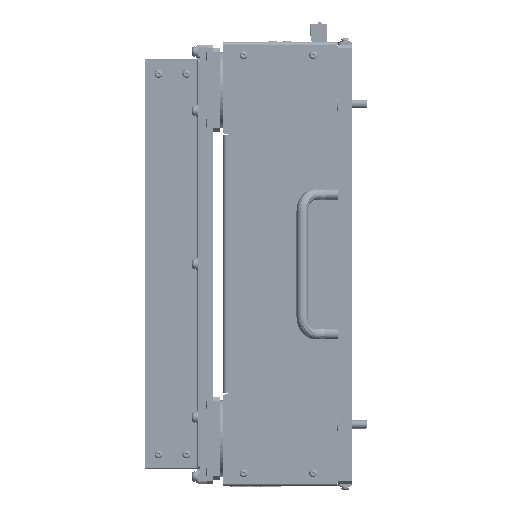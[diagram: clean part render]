
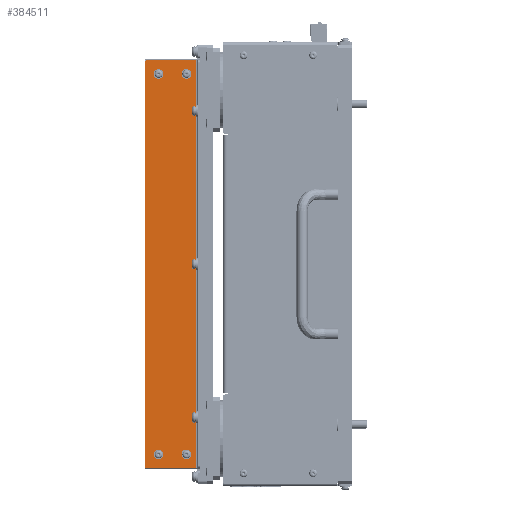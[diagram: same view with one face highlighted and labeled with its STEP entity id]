
A CAD part, left-side view. The second image highlights one B-rep face of the part: STEP entity #384511.
In plain terms, the highlighted planar face has unit normal (-1, 0, 0).
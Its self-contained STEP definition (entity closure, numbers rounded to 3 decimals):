
#17263 = DIRECTION ( 'NONE',  ( 0., 0., -1. ) ) ;
#31690 = AXIS2_PLACEMENT_3D ( 'NONE', #420384, #578391, #221488 ) ;
#31878 = AXIS2_PLACEMENT_3D ( 'NONE', #326710, #168630, #17263 ) ;
#34967 = AXIS2_PLACEMENT_3D ( 'NONE', #382477, #590335, #282899 ) ;
#39149 = CARTESIAN_POINT ( 'NONE',  ( -212.922, 69., 157.105 ) ) ;
#39242 = ORIENTED_EDGE ( 'NONE', *, *, #552658, .F. ) ;
#52401 = CIRCLE ( 'NONE', #560769, 1.7 ) ;
#54641 = EDGE_CURVE ( 'NONE', #337383, #393787, #300735, .T. ) ;
#56567 = EDGE_LOOP ( 'NONE', ( #76183, #481731, #202450, #397173, #549243, #652537 ) ) ;
#67831 = CARTESIAN_POINT ( 'NONE',  ( -212.922, 89., -117.595 ) ) ;
#76183 = ORIENTED_EDGE ( 'NONE', *, *, #329081, .T. ) ;
#80125 = VERTEX_POINT ( 'NONE', #184512 ) ;
#82887 = CARTESIAN_POINT ( 'NONE',  ( -212.922, 59., 167.105 ) ) ;
#93520 = AXIS2_PLACEMENT_3D ( 'NONE', #572575, #475442, #518470 ) ;
#95656 = ORIENTED_EDGE ( 'NONE', *, *, #641514, .F. ) ;
#97357 = LINE ( 'NONE', #82887, #639337 ) ;
#98959 = FACE_BOUND ( 'NONE', #355547, .T. ) ;
#114198 = ORIENTED_EDGE ( 'NONE', *, *, #333088, .F. ) ;
#120889 = DIRECTION ( 'NONE',  ( -1., 0., 0. ) ) ;
#128914 = ORIENTED_EDGE ( 'NONE', *, *, #228514, .F. ) ;
#136998 = EDGE_CURVE ( 'NONE', #425905, #322918, #293176, .T. ) ;
#143295 = VERTEX_POINT ( 'NONE', #620920 ) ;
#146406 = EDGE_LOOP ( 'NONE', ( #114198, #620116 ) ) ;
#162684 = EDGE_CURVE ( 'NONE', #322918, #425905, #52401, .T. ) ;
#168373 = CARTESIAN_POINT ( 'NONE',  ( -212.922, 69., 157.105 ) ) ;
#168630 = DIRECTION ( 'NONE',  ( -1., 0., 0. ) ) ;
#179254 = CARTESIAN_POINT ( 'NONE',  ( -212.922, 69., -115.895 ) ) ;
#184512 = CARTESIAN_POINT ( 'NONE',  ( -212.922, 89., -114.195 ) ) ;
#185444 = EDGE_CURVE ( 'NONE', #383135, #463753, #97357, .T. ) ;
#196673 = LINE ( 'NONE', #413258, #285360 ) ;
#202450 = ORIENTED_EDGE ( 'NONE', *, *, #521090, .T. ) ;
#203455 = PLANE ( 'NONE',  #435045 ) ;
#211276 = VERTEX_POINT ( 'NONE', #527245 ) ;
#211627 = VECTOR ( 'NONE', #541244, 1000. ) ;
#212379 = FACE_BOUND ( 'NONE', #146406, .T. ) ;
#213501 = EDGE_CURVE ( 'NONE', #463753, #211276, #261189, .T. ) ;
#221488 = DIRECTION ( 'NONE',  ( 0., 0., 1. ) ) ;
#228514 = EDGE_CURVE ( 'NONE', #143295, #667035, #312199, .T. ) ;
#229157 = CIRCLE ( 'NONE', #324008, 1.7 ) ;
#236482 = FACE_BOUND ( 'NONE', #537164, .T. ) ;
#244102 = LINE ( 'NONE', #335627, #211627 ) ;
#246918 = DIRECTION ( 'NONE',  ( -1., 0., 0. ) ) ;
#255420 = DIRECTION ( 'NONE',  ( 1., 0., 0. ) ) ;
#261189 = CIRCLE ( 'NONE', #31878, 2. ) ;
#262740 = VERTEX_POINT ( 'NONE', #461682 ) ;
#282899 = DIRECTION ( 'NONE',  ( 0., 0., 1. ) ) ;
#285360 = VECTOR ( 'NONE', #621103, 1000. ) ;
#291377 = CARTESIAN_POINT ( 'NONE',  ( -212.922, 89., 155.405 ) ) ;
#291850 = LINE ( 'NONE', #292265, #453413 ) ;
#292265 = CARTESIAN_POINT ( 'NONE',  ( -212.922, 62., 167.105 ) ) ;
#293176 = CIRCLE ( 'NONE', #635333, 1.7 ) ;
#298707 = DIRECTION ( 'NONE',  ( 0., 0., 1. ) ) ;
#300735 = CIRCLE ( 'NONE', #451636, 2. ) ;
#312199 = CIRCLE ( 'NONE', #599741, 1.7 ) ;
#322918 = VERTEX_POINT ( 'NONE', #449718 ) ;
#324008 = AXIS2_PLACEMENT_3D ( 'NONE', #439285, #120889, #590713 ) ;
#326710 = CARTESIAN_POINT ( 'NONE',  ( -212.922, 97., 165.105 ) ) ;
#329081 = EDGE_CURVE ( 'NONE', #211276, #337383, #196673, .T. ) ;
#333088 = EDGE_CURVE ( 'NONE', #80125, #522557, #468052, .T. ) ;
#335627 = CARTESIAN_POINT ( 'NONE',  ( -212.922, 59., -125.895 ) ) ;
#337383 = VERTEX_POINT ( 'NONE', #415223 ) ;
#340790 = ORIENTED_EDGE ( 'NONE', *, *, #435680, .F. ) ;
#341313 = CARTESIAN_POINT ( 'NONE',  ( -212.922, 69., 158.805 ) ) ;
#355547 = EDGE_LOOP ( 'NONE', ( #128914, #39242 ) ) ;
#365500 = CIRCLE ( 'NONE', #34967, 1.7 ) ;
#366185 = CARTESIAN_POINT ( 'NONE',  ( -212.922, 89., 158.805 ) ) ;
#375468 = CARTESIAN_POINT ( 'NONE',  ( -212.922, 97., -123.895 ) ) ;
#382203 = DIRECTION ( 'NONE',  ( 0., 0., -1. ) ) ;
#382477 = CARTESIAN_POINT ( 'NONE',  ( -212.922, 89., -115.895 ) ) ;
#382828 = CIRCLE ( 'NONE', #31690, 1.7 ) ;
#383135 = VERTEX_POINT ( 'NONE', #513347 ) ;
#384511 = ADVANCED_FACE ( 'NONE', ( #212379, #98959, #236482, #462591, #656996 ), #203455, .F. ) ;
#387450 = DIRECTION ( 'NONE',  ( 0., 0., -1. ) ) ;
#393787 = VERTEX_POINT ( 'NONE', #548572 ) ;
#393815 = CARTESIAN_POINT ( 'NONE',  ( -212.922, 97., 167.105 ) ) ;
#397173 = ORIENTED_EDGE ( 'NONE', *, *, #662865, .F. ) ;
#403629 = ORIENTED_EDGE ( 'NONE', *, *, #136998, .F. ) ;
#404503 = CARTESIAN_POINT ( 'NONE',  ( -212.922, 79., 20.605 ) ) ;
#413258 = CARTESIAN_POINT ( 'NONE',  ( -212.922, 99., -125.895 ) ) ;
#415223 = CARTESIAN_POINT ( 'NONE',  ( -212.922, 99., -123.895 ) ) ;
#420384 = CARTESIAN_POINT ( 'NONE',  ( -212.922, 89., 157.105 ) ) ;
#425905 = VERTEX_POINT ( 'NONE', #341313 ) ;
#435045 = AXIS2_PLACEMENT_3D ( 'NONE', #404503, #255420, #456502 ) ;
#435680 = EDGE_CURVE ( 'NONE', #633790, #596527, #382828, .T. ) ;
#439285 = CARTESIAN_POINT ( 'NONE',  ( -212.922, 69., -115.895 ) ) ;
#440736 = DIRECTION ( 'NONE',  ( -1., 0., 0. ) ) ;
#449718 = CARTESIAN_POINT ( 'NONE',  ( -212.922, 69., 155.405 ) ) ;
#451636 = AXIS2_PLACEMENT_3D ( 'NONE', #375468, #587819, #382203 ) ;
#453413 = VECTOR ( 'NONE', #387450, 1000. ) ;
#456502 = DIRECTION ( 'NONE',  ( 0., 0., -1. ) ) ;
#461682 = CARTESIAN_POINT ( 'NONE',  ( -212.922, 62., -125.895 ) ) ;
#462591 = FACE_BOUND ( 'NONE', #637338, .T. ) ;
#463753 = VERTEX_POINT ( 'NONE', #393815 ) ;
#468052 = CIRCLE ( 'NONE', #93520, 1.7 ) ;
#473550 = DIRECTION ( 'NONE',  ( 0., 0., 1. ) ) ;
#475442 = DIRECTION ( 'NONE',  ( -1., 0., 0. ) ) ;
#481731 = ORIENTED_EDGE ( 'NONE', *, *, #54641, .T. ) ;
#490500 = DIRECTION ( 'NONE',  ( 0., 0., 1. ) ) ;
#491025 = DIRECTION ( 'NONE',  ( -1., 0., 0. ) ) ;
#500612 = DIRECTION ( 'NONE',  ( 0., 1., 0. ) ) ;
#509052 = EDGE_CURVE ( 'NONE', #522557, #80125, #365500, .T. ) ;
#513347 = CARTESIAN_POINT ( 'NONE',  ( -212.922, 62., 167.105 ) ) ;
#518470 = DIRECTION ( 'NONE',  ( 0., 0., 1. ) ) ;
#521090 = EDGE_CURVE ( 'NONE', #393787, #262740, #244102, .T. ) ;
#522557 = VERTEX_POINT ( 'NONE', #67831 ) ;
#527245 = CARTESIAN_POINT ( 'NONE',  ( -212.922, 99., 165.105 ) ) ;
#528924 = ORIENTED_EDGE ( 'NONE', *, *, #162684, .F. ) ;
#529918 = DIRECTION ( 'NONE',  ( -1., 0., 0. ) ) ;
#531309 = CARTESIAN_POINT ( 'NONE',  ( -212.922, 69., -117.595 ) ) ;
#537164 = EDGE_LOOP ( 'NONE', ( #340790, #95656 ) ) ;
#541244 = DIRECTION ( 'NONE',  ( 0., -1., 0. ) ) ;
#548572 = CARTESIAN_POINT ( 'NONE',  ( -212.922, 97., -125.895 ) ) ;
#549243 = ORIENTED_EDGE ( 'NONE', *, *, #185444, .T. ) ;
#552658 = EDGE_CURVE ( 'NONE', #667035, #143295, #229157, .T. ) ;
#560769 = AXIS2_PLACEMENT_3D ( 'NONE', #168373, #529918, #473550 ) ;
#572575 = CARTESIAN_POINT ( 'NONE',  ( -212.922, 89., -115.895 ) ) ;
#578391 = DIRECTION ( 'NONE',  ( -1., 0., 0. ) ) ;
#586412 = CIRCLE ( 'NONE', #626281, 1.7 ) ;
#587819 = DIRECTION ( 'NONE',  ( -1., 0., 0. ) ) ;
#590335 = DIRECTION ( 'NONE',  ( -1., 0., 0. ) ) ;
#590713 = DIRECTION ( 'NONE',  ( 0., 0., 1. ) ) ;
#596527 = VERTEX_POINT ( 'NONE', #291377 ) ;
#599741 = AXIS2_PLACEMENT_3D ( 'NONE', #179254, #491025, #651275 ) ;
#620116 = ORIENTED_EDGE ( 'NONE', *, *, #509052, .F. ) ;
#620920 = CARTESIAN_POINT ( 'NONE',  ( -212.922, 69., -114.195 ) ) ;
#621103 = DIRECTION ( 'NONE',  ( 0., 0., -1. ) ) ;
#626281 = AXIS2_PLACEMENT_3D ( 'NONE', #639700, #440736, #490500 ) ;
#633790 = VERTEX_POINT ( 'NONE', #366185 ) ;
#635333 = AXIS2_PLACEMENT_3D ( 'NONE', #39149, #246918, #298707 ) ;
#637338 = EDGE_LOOP ( 'NONE', ( #403629, #528924 ) ) ;
#639337 = VECTOR ( 'NONE', #500612, 1000. ) ;
#639700 = CARTESIAN_POINT ( 'NONE',  ( -212.922, 89., 157.105 ) ) ;
#641514 = EDGE_CURVE ( 'NONE', #596527, #633790, #586412, .T. ) ;
#651275 = DIRECTION ( 'NONE',  ( 0., 0., 1. ) ) ;
#652537 = ORIENTED_EDGE ( 'NONE', *, *, #213501, .T. ) ;
#656996 = FACE_OUTER_BOUND ( 'NONE', #56567, .T. ) ;
#662865 = EDGE_CURVE ( 'NONE', #383135, #262740, #291850, .T. ) ;
#667035 = VERTEX_POINT ( 'NONE', #531309 ) ;
